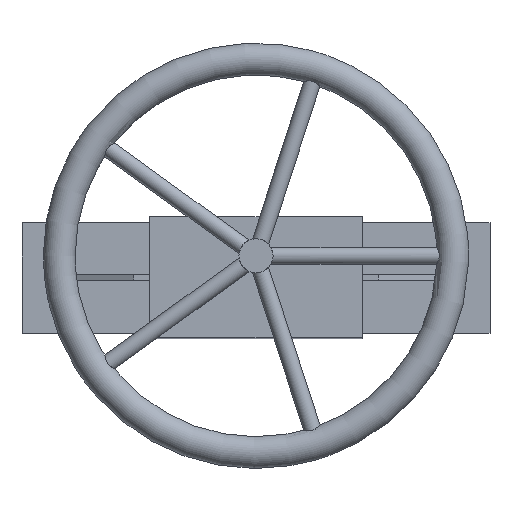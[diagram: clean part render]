
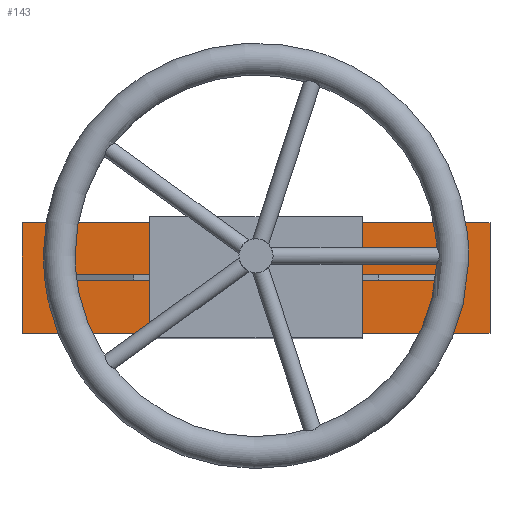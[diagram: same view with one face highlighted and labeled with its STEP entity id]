
A CAD part, top view. The second image highlights one B-rep face of the part: STEP entity #143.
In plain terms, the highlighted planar face has unit normal (0, 0, 1).
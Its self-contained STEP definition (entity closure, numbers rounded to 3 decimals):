
#143=ADVANCED_FACE('',(#1562,#1564,#1566),#1568,.T.);
#1562=FACE_BOUND('',#1563,.T.);
#1563=EDGE_LOOP('',(#2797,#2798,#2799,#2800,#2801,#2802,#2803,#2804));
#1564=FACE_BOUND('',#1565,.T.);
#1565=EDGE_LOOP('',(#2805,#2806,#2807,#2808));
#1566=FACE_BOUND('',#1567,.T.);
#1567=EDGE_LOOP('',(#2809));
#1568=PLANE('',#1569);
#1569=AXIS2_PLACEMENT_3D('',#1570,#1571,#1572);
#1570=CARTESIAN_POINT('',(0.,0.,395.));
#1571=DIRECTION('',(0.,0.,1.));
#1572=DIRECTION('',(1.,0.,0.));
#2797=ORIENTED_EDGE('',*,*,#3499,.F.);
#2798=ORIENTED_EDGE('',*,*,#3500,.T.);
#2799=ORIENTED_EDGE('',*,*,#3501,.T.);
#2800=ORIENTED_EDGE('',*,*,#3502,.T.);
#2801=ORIENTED_EDGE('',*,*,#3503,.F.);
#2802=ORIENTED_EDGE('',*,*,#3504,.T.);
#2803=ORIENTED_EDGE('',*,*,#3505,.T.);
#2804=ORIENTED_EDGE('',*,*,#3506,.T.);
#2805=ORIENTED_EDGE('',*,*,#3507,.F.);
#2806=ORIENTED_EDGE('',*,*,#3489,.F.);
#2807=ORIENTED_EDGE('',*,*,#3508,.F.);
#2808=ORIENTED_EDGE('',*,*,#3465,.F.);
#2809=ORIENTED_EDGE('',*,*,#3482,.F.);
#3465=EDGE_CURVE('',#3826,#3828,#3829,.T.);
#3482=EDGE_CURVE('',#3859,#3859,#3860,.F.);
#3489=EDGE_CURVE('',#3870,#3872,#3873,.F.);
#3499=EDGE_CURVE('',#3887,#3888,#3889,.T.);
#3500=EDGE_CURVE('',#3887,#3890,#3891,.T.);
#3501=EDGE_CURVE('',#3890,#3892,#3893,.T.);
#3502=EDGE_CURVE('',#3892,#3894,#3895,.T.);
#3503=EDGE_CURVE('',#3896,#3894,#3897,.T.);
#3504=EDGE_CURVE('',#3896,#3898,#3899,.T.);
#3505=EDGE_CURVE('',#3898,#3900,#3901,.T.);
#3506=EDGE_CURVE('',#3900,#3888,#3902,.T.);
#3507=EDGE_CURVE('',#3872,#3826,#3903,.T.);
#3508=EDGE_CURVE('',#3828,#3870,#3904,.T.);
#3826=VERTEX_POINT('',#4448);
#3828=VERTEX_POINT('',#4452);
#3829=LINE('',#4453,#4454);
#3859=VERTEX_POINT('',#4520);
#3860=CIRCLE('',#4521,16.);
#3870=VERTEX_POINT('',#4544);
#3872=VERTEX_POINT('',#4548);
#3873=LINE('',#4549,#4550);
#3887=VERTEX_POINT('',#4583);
#3888=VERTEX_POINT('',#4584);
#3889=LINE('',#4585,#4586);
#3890=VERTEX_POINT('',#4588);
#3891=LINE('',#4589,#4590);
#3892=VERTEX_POINT('',#4592);
#3893=LINE('',#4593,#4594);
#3894=VERTEX_POINT('',#4596);
#3895=LINE('',#4597,#4598);
#3896=VERTEX_POINT('',#4600);
#3897=LINE('',#4601,#4602);
#3898=VERTEX_POINT('',#4604);
#3899=LINE('',#4605,#4606);
#3900=VERTEX_POINT('',#4608);
#3901=LINE('',#4609,#4610);
#3902=LINE('',#4612,#4613);
#3903=LINE('',#4615,#4616);
#3904=LINE('',#4618,#4619);
#4448=CARTESIAN_POINT('',(-185.,-2.5,395.));
#4452=CARTESIAN_POINT('',(185.,-2.5,395.));
#4453=CARTESIAN_POINT('',(-185.,-2.5,395.));
#4454=VECTOR('',#4455,1.);
#4455=DIRECTION('',(1.,0.,0.));
#4520=CARTESIAN_POINT('',(0.,36.,395.));
#4521=AXIS2_PLACEMENT_3D('',#4522,#4523,#4524);
#4522=CARTESIAN_POINT('',(0.,20.,395.));
#4523=DIRECTION('',(-0.,-0.,-1.));
#4524=DIRECTION('',(0.,1.,0.));
#4544=CARTESIAN_POINT('',(185.,2.5,395.));
#4548=CARTESIAN_POINT('',(-185.,2.5,395.));
#4549=CARTESIAN_POINT('',(-185.,2.5,395.));
#4550=VECTOR('',#4551,1.);
#4551=DIRECTION('',(1.,0.,0.));
#4583=CARTESIAN_POINT('',(100.,-52.,395.));
#4584=CARTESIAN_POINT('',(-100.,-52.,395.));
#4585=CARTESIAN_POINT('',(100.,-52.,395.));
#4586=VECTOR('',#4587,1.);
#4587=DIRECTION('',(-1.,0.,0.));
#4588=CARTESIAN_POINT('',(220.,-52.,395.));
#4589=CARTESIAN_POINT('',(100.,-52.,395.));
#4590=VECTOR('',#4591,1.);
#4591=DIRECTION('',(1.,0.,0.));
#4592=CARTESIAN_POINT('',(220.,52.,395.));
#4593=CARTESIAN_POINT('',(220.,-52.,395.));
#4594=VECTOR('',#4595,1.);
#4595=DIRECTION('',(0.,1.,0.));
#4596=CARTESIAN_POINT('',(100.,52.,395.));
#4597=CARTESIAN_POINT('',(220.,52.,395.));
#4598=VECTOR('',#4599,1.);
#4599=DIRECTION('',(-1.,0.,0.));
#4600=CARTESIAN_POINT('',(-100.,52.,395.));
#4601=CARTESIAN_POINT('',(-100.,52.,395.));
#4602=VECTOR('',#4603,1.);
#4603=DIRECTION('',(1.,0.,0.));
#4604=CARTESIAN_POINT('',(-220.,52.,395.));
#4605=CARTESIAN_POINT('',(-100.,52.,395.));
#4606=VECTOR('',#4607,1.);
#4607=DIRECTION('',(-1.,0.,0.));
#4608=CARTESIAN_POINT('',(-220.,-52.,395.));
#4609=CARTESIAN_POINT('',(-220.,52.,395.));
#4610=VECTOR('',#4611,1.);
#4611=DIRECTION('',(0.,-1.,0.));
#4612=CARTESIAN_POINT('',(-220.,-52.,395.));
#4613=VECTOR('',#4614,1.);
#4614=DIRECTION('',(1.,0.,0.));
#4615=CARTESIAN_POINT('',(-185.,2.5,395.));
#4616=VECTOR('',#4617,1.);
#4617=DIRECTION('',(0.,-1.,0.));
#4618=CARTESIAN_POINT('',(185.,-2.5,395.));
#4619=VECTOR('',#4620,1.);
#4620=DIRECTION('',(0.,1.,0.));
